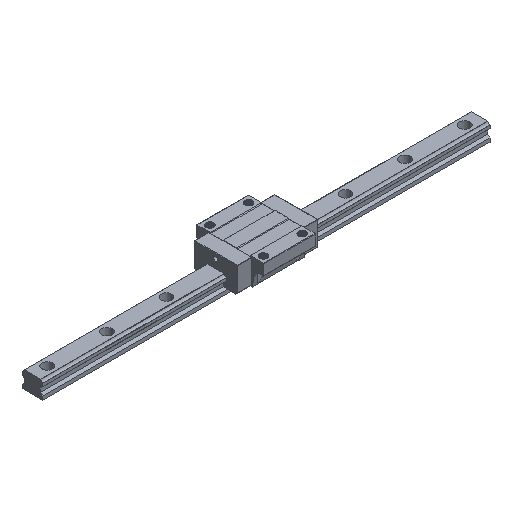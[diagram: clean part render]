
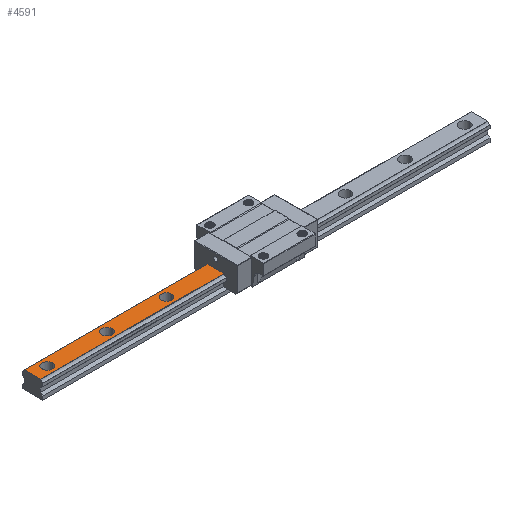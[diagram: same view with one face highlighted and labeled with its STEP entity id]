
A CAD part, isometric view. The second image highlights one B-rep face of the part: STEP entity #4591.
In plain terms, the highlighted planar face has unit normal (0, 0, 1).
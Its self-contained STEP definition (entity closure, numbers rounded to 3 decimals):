
#104 = ORIENTED_EDGE ( 'NONE', *, *, #9340, .T. ) ;
#110 = CIRCLE ( 'NONE', #12603, 7. ) ;
#362 = LINE ( 'NONE', #10708, #17751 ) ;
#637 = DIRECTION ( 'NONE',  ( -1., 0., 0. ) ) ;
#929 = CARTESIAN_POINT ( 'NONE',  ( -120., 0., 23. ) ) ;
#997 = FACE_BOUND ( 'NONE', #19134, .T. ) ;
#1380 = EDGE_CURVE ( 'NONE', #13817, #16283, #110, .T. ) ;
#1972 = DIRECTION ( 'NONE',  ( -1., 0., 0. ) ) ;
#1995 = DIRECTION ( 'NONE',  ( 0., 0., -1. ) ) ;
#2010 = VERTEX_POINT ( 'NONE', #4493 ) ;
#2326 = DIRECTION ( 'NONE',  ( 0., 0., -1. ) ) ;
#2602 = FACE_OUTER_BOUND ( 'NONE', #18490, .T. ) ;
#2694 = DIRECTION ( 'NONE',  ( 0., 0., -1. ) ) ;
#2915 = ORIENTED_EDGE ( 'NONE', *, *, #11747, .T. ) ;
#2993 = EDGE_CURVE ( 'NONE', #19091, #6949, #9438, .T. ) ;
#3289 = CARTESIAN_POINT ( 'NONE',  ( -200., 0., 23. ) ) ;
#3804 = CARTESIAN_POINT ( 'NONE',  ( -53.9, 11.035, 23. ) ) ;
#3872 = CARTESIAN_POINT ( 'NONE',  ( 300., -11.035, 23. ) ) ;
#4076 = VECTOR ( 'NONE', #9494, 1000. ) ;
#4100 = FACE_BOUND ( 'NONE', #19513, .T. ) ;
#4195 = DIRECTION ( 'NONE',  ( 0., 0., -1. ) ) ;
#4245 = ORIENTED_EDGE ( 'NONE', *, *, #13983, .T. ) ;
#4305 = CIRCLE ( 'NONE', #4623, 7. ) ;
#4458 = AXIS2_PLACEMENT_3D ( 'NONE', #13530, #2694, #8822 ) ;
#4493 = CARTESIAN_POINT ( 'NONE',  ( -300., -11.035, 23. ) ) ;
#4591 = ADVANCED_FACE ( 'NONE', ( #2602, #9024, #997, #4100 ), #11940, .F. ) ;
#4623 = AXIS2_PLACEMENT_3D ( 'NONE', #17285, #4837, #10979 ) ;
#4769 = CARTESIAN_POINT ( 'NONE',  ( 300., 11.035, 23. ) ) ;
#4837 = DIRECTION ( 'NONE',  ( 0., 0., -1. ) ) ;
#4935 = AXIS2_PLACEMENT_3D ( 'NONE', #3289, #1995, #18837 ) ;
#4942 = EDGE_CURVE ( 'NONE', #13087, #2010, #362, .T. ) ;
#5032 = CARTESIAN_POINT ( 'NONE',  ( -113., 0., 23. ) ) ;
#5735 = VERTEX_POINT ( 'NONE', #11573 ) ;
#5821 = ORIENTED_EDGE ( 'NONE', *, *, #4942, .T. ) ;
#6372 = AXIS2_PLACEMENT_3D ( 'NONE', #929, #2326, #637 ) ;
#6497 = ORIENTED_EDGE ( 'NONE', *, *, #13831, .T. ) ;
#6754 = EDGE_CURVE ( 'NONE', #6949, #19091, #4305, .T. ) ;
#6882 = LINE ( 'NONE', #3872, #14729 ) ;
#6949 = VERTEX_POINT ( 'NONE', #8913 ) ;
#8522 = AXIS2_PLACEMENT_3D ( 'NONE', #19603, #19704, #10410 ) ;
#8620 = CIRCLE ( 'NONE', #6372, 7. ) ;
#8658 = DIRECTION ( 'NONE',  ( -1., 0., 0. ) ) ;
#8673 = CARTESIAN_POINT ( 'NONE',  ( -53.9, -11.035, 23. ) ) ;
#8724 = DIRECTION ( 'NONE',  ( 0., -1., 0. ) ) ;
#8822 = DIRECTION ( 'NONE',  ( -1., 0., 0. ) ) ;
#8859 = ORIENTED_EDGE ( 'NONE', *, *, #15118, .T. ) ;
#8913 = CARTESIAN_POINT ( 'NONE',  ( -207., 0., 23. ) ) ;
#9024 = FACE_BOUND ( 'NONE', #16333, .T. ) ;
#9284 = EDGE_CURVE ( 'NONE', #13423, #19640, #12517, .T. ) ;
#9340 = EDGE_CURVE ( 'NONE', #13423, #13087, #15709, .T. ) ;
#9438 = CIRCLE ( 'NONE', #4935, 7. ) ;
#9494 = DIRECTION ( 'NONE',  ( 0., -1., 0. ) ) ;
#9734 = AXIS2_PLACEMENT_3D ( 'NONE', #16339, #4195, #8724 ) ;
#10009 = DIRECTION ( 'NONE',  ( 1., 0., 0. ) ) ;
#10410 = DIRECTION ( 'NONE',  ( -1., 0., 0. ) ) ;
#10708 = CARTESIAN_POINT ( 'NONE',  ( -300., 0., 23. ) ) ;
#10979 = DIRECTION ( 'NONE',  ( -1., 0., 0. ) ) ;
#11198 = CIRCLE ( 'NONE', #4458, 7. ) ;
#11573 = CARTESIAN_POINT ( 'NONE',  ( -127., 0., 23. ) ) ;
#11747 = EDGE_CURVE ( 'NONE', #17563, #5735, #12056, .T. ) ;
#11940 = PLANE ( 'NONE',  #9734 ) ;
#12056 = CIRCLE ( 'NONE', #8522, 7. ) ;
#12517 = LINE ( 'NONE', #13452, #4076 ) ;
#12576 = CARTESIAN_POINT ( 'NONE',  ( -273., 0., 23. ) ) ;
#12603 = AXIS2_PLACEMENT_3D ( 'NONE', #14570, #17582, #8658 ) ;
#12842 = ORIENTED_EDGE ( 'NONE', *, *, #2993, .T. ) ;
#13087 = VERTEX_POINT ( 'NONE', #16456 ) ;
#13423 = VERTEX_POINT ( 'NONE', #3804 ) ;
#13452 = CARTESIAN_POINT ( 'NONE',  ( -53.9, -11.035, 23. ) ) ;
#13530 = CARTESIAN_POINT ( 'NONE',  ( -280., 0., 23. ) ) ;
#13817 = VERTEX_POINT ( 'NONE', #16069 ) ;
#13831 = EDGE_CURVE ( 'NONE', #5735, #17563, #8620, .T. ) ;
#13983 = EDGE_CURVE ( 'NONE', #16283, #13817, #11198, .T. ) ;
#14570 = CARTESIAN_POINT ( 'NONE',  ( -280., 0., 23. ) ) ;
#14729 = VECTOR ( 'NONE', #10009, 1000. ) ;
#15118 = EDGE_CURVE ( 'NONE', #2010, #19640, #6882, .T. ) ;
#15709 = LINE ( 'NONE', #4769, #19760 ) ;
#16069 = CARTESIAN_POINT ( 'NONE',  ( -287., 0., 23. ) ) ;
#16283 = VERTEX_POINT ( 'NONE', #12576 ) ;
#16333 = EDGE_LOOP ( 'NONE', ( #6497, #2915 ) ) ;
#16339 = CARTESIAN_POINT ( 'NONE',  ( 300., 0., 23. ) ) ;
#16456 = CARTESIAN_POINT ( 'NONE',  ( -300., 11.035, 23. ) ) ;
#17285 = CARTESIAN_POINT ( 'NONE',  ( -200., 0., 23. ) ) ;
#17563 = VERTEX_POINT ( 'NONE', #5032 ) ;
#17582 = DIRECTION ( 'NONE',  ( 0., 0., -1. ) ) ;
#17751 = VECTOR ( 'NONE', #18304, 1000. ) ;
#18304 = DIRECTION ( 'NONE',  ( 0., -1., 0. ) ) ;
#18490 = EDGE_LOOP ( 'NONE', ( #18917, #104, #5821, #8859 ) ) ;
#18837 = DIRECTION ( 'NONE',  ( -1., 0., 0. ) ) ;
#18917 = ORIENTED_EDGE ( 'NONE', *, *, #9284, .F. ) ;
#18991 = ORIENTED_EDGE ( 'NONE', *, *, #1380, .T. ) ;
#19091 = VERTEX_POINT ( 'NONE', #19744 ) ;
#19134 = EDGE_LOOP ( 'NONE', ( #19751, #12842 ) ) ;
#19513 = EDGE_LOOP ( 'NONE', ( #18991, #4245 ) ) ;
#19603 = CARTESIAN_POINT ( 'NONE',  ( -120., 0., 23. ) ) ;
#19640 = VERTEX_POINT ( 'NONE', #8673 ) ;
#19704 = DIRECTION ( 'NONE',  ( 0., 0., -1. ) ) ;
#19744 = CARTESIAN_POINT ( 'NONE',  ( -193., 0., 23. ) ) ;
#19751 = ORIENTED_EDGE ( 'NONE', *, *, #6754, .T. ) ;
#19760 = VECTOR ( 'NONE', #1972, 1000. ) ;
